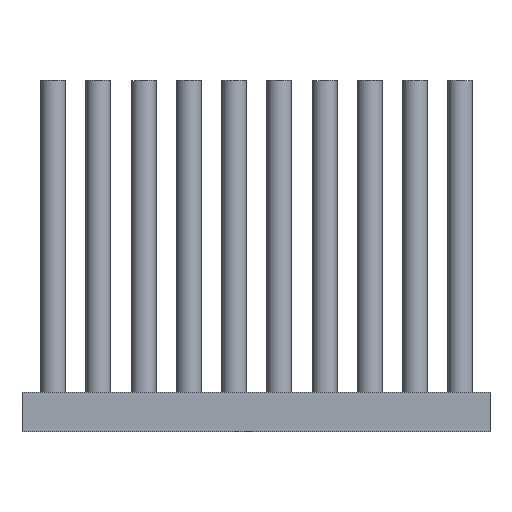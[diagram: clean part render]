
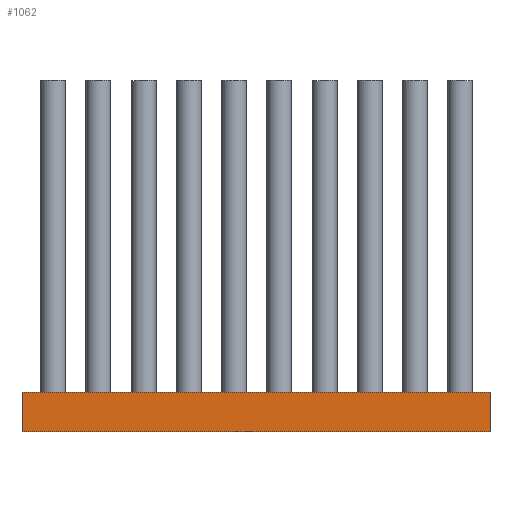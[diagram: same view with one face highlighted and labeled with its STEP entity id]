
A CAD part, front view. The second image highlights one B-rep face of the part: STEP entity #1062.
In plain terms, the highlighted planar face has unit normal (0, -1, 0).
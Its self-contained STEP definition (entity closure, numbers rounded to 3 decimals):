
#336=FACE_OUTER_BOUND('',#3475,.T.);
#1062=ADVANCED_FACE('',(#336),#1308,.F.);
#1308=PLANE('',#6430);
#3475=EDGE_LOOP('',(#4447,#4448,#4449,#4450));
#4447=ORIENTED_EDGE('',*,*,#4952,.T.);
#4448=ORIENTED_EDGE('',*,*,#5437,.F.);
#4449=ORIENTED_EDGE('',*,*,#5438,.T.);
#4450=ORIENTED_EDGE('',*,*,#5439,.T.);
#4463=VERTEX_POINT('',#8382);
#4465=VERTEX_POINT('',#8385);
#4948=VERTEX_POINT('',#9833);
#4949=VERTEX_POINT('',#9837);
#4952=EDGE_CURVE('',#4465,#4463,#5444,.T.);
#5437=EDGE_CURVE('',#4948,#4463,#5449,.T.);
#5438=EDGE_CURVE('',#4948,#4949,#5450,.T.);
#5439=EDGE_CURVE('',#4949,#4465,#5451,.T.);
#5444=LINE('',#8384,#5456);
#5449=LINE('',#9834,#5461);
#5450=LINE('',#9836,#5462);
#5451=LINE('',#9838,#5463);
#5456=VECTOR('',#6437,1.);
#5461=VECTOR('',#8364,1.);
#5462=VECTOR('',#8367,1.);
#5463=VECTOR('',#8368,1.);
#6430=AXIS2_PLACEMENT_3D('',#9839,#8369,#8370);
#6437=DIRECTION('',(-1.,0.,0.));
#8364=DIRECTION('',(0.,0.,1.));
#8367=DIRECTION('',(1.,0.,0.));
#8368=DIRECTION('',(0.,0.,1.));
#8369=DIRECTION('',(0.,1.,0.));
#8370=DIRECTION('',(0.,0.,1.));
#8382=CARTESIAN_POINT('',(-30.,-59.5,15.));
#8384=CARTESIAN_POINT('',(105.25,-59.5,15.));
#8385=CARTESIAN_POINT('',(30.,-59.5,15.));
#9833=CARTESIAN_POINT('',(-30.,-59.5,10.));
#9834=CARTESIAN_POINT('',(-30.,-59.5,45.));
#9836=CARTESIAN_POINT('',(-30.,-59.5,10.));
#9837=CARTESIAN_POINT('',(30.,-59.5,10.));
#9838=CARTESIAN_POINT('',(30.,-59.5,45.));
#9839=CARTESIAN_POINT('',(-30.,-59.5,45.));
